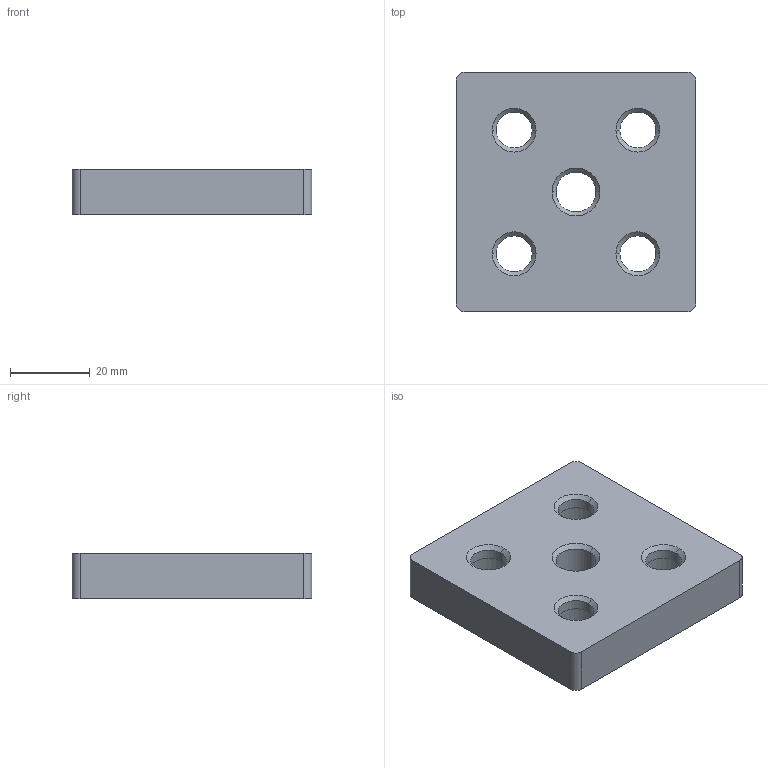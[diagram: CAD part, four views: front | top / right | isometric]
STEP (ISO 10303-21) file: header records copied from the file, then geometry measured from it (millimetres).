
FILE_DESCRIPTION (( 'STEP AP203' ), '1' );
FILE_NAME ('7004.STEP', '2016-04-03T12:11:48', ( '' ), ( '' ), 'SwSTEP 2.0', 'SolidWorks 2014', '' );
FILE_SCHEMA (( 'CONFIG_CONTROL_DESIGN' ));
Length unit declared in the file: millimetre
Products named in the file (1): 7004
Bounding box: 60 x 60 x 11.5 mm (x, y, z)
Volume: 34454.2 mm3; surface area: 11219.1 mm2
Topology: 1 solids, 1 shells, 52 faces, 118 edges, 72 vertices
Faces by surface type: cylinder 22, cone 20, plane 10
Entity records: 1563 total; most frequent: DIRECTION 288, CARTESIAN_POINT 243, ORIENTED_EDGE 236, EDGE_CURVE 118, AXIS2_PLACEMENT_3D 117, VERTEX_POINT 72, EDGE_LOOP 66, CIRCLE 64
